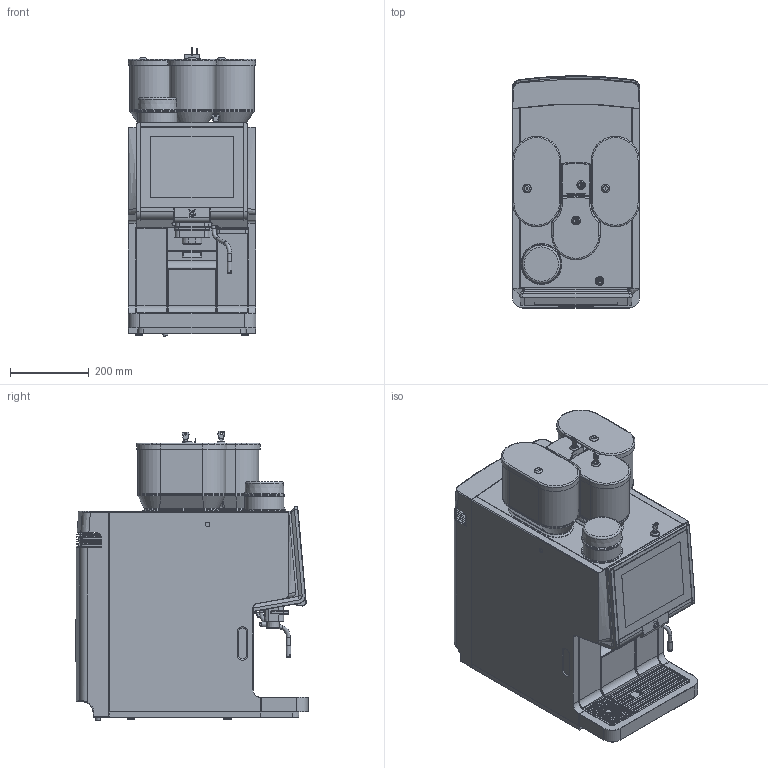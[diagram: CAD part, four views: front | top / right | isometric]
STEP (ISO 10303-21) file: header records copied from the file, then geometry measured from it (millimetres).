
FILE_DESCRIPTION(/* description */ (''),/* implementation_level */ '2;1');
FILE_NAME(/* name */ 'D:\Projekte\WMF\1920\1920_3D.stp',/* time_stamp */ '2018-08-29T02:00:58+02:00',/* author */ ('Andreas'),/* organization */ (''),/* preprocessor_version */ 'ST-DEVELOPER v17',/* originating_system */ 'Autodesk Inventor 2018',/* authorisation */ '');
FILE_SCHEMA (('AUTOMOTIVE_DESIGN { 1 0 10303 214 3 1 1 }'));
Products named in the file (1): 1920_3D
Bounding box: 325 x 590 x 734.95 mm (x, y, z)
Surface area: 1969921.1 mm2 (no closed solid volume)
Topology: 0 solids, 1 shells, 2253 faces, 6002 edges, 3742 vertices
Faces by surface type: plane 906, cylinder 664, bspline 380, torus 146, cone 126, sphere 31
Full cylindrical faces by diameter (mm): 3 x45, 3.2 x2, 4.2 x2, 5 x3, 6 x1, 7.2 x1, 8 x3, 8.5 x1, 8.8 x1, 10 x4, 12 x4, 13 x3, 16 x1, 17 x4, 20 x1, 22 x5, 99 x1
Entity records: 88032 total; most frequent: CARTESIAN_POINT 32773, ORIENTED_EDGE 11948, DIRECTION 11200, EDGE_CURVE 5974, AXIS2_PLACEMENT_3D 4170, VERTEX_POINT 3742, LINE 2860, VECTOR 2860
